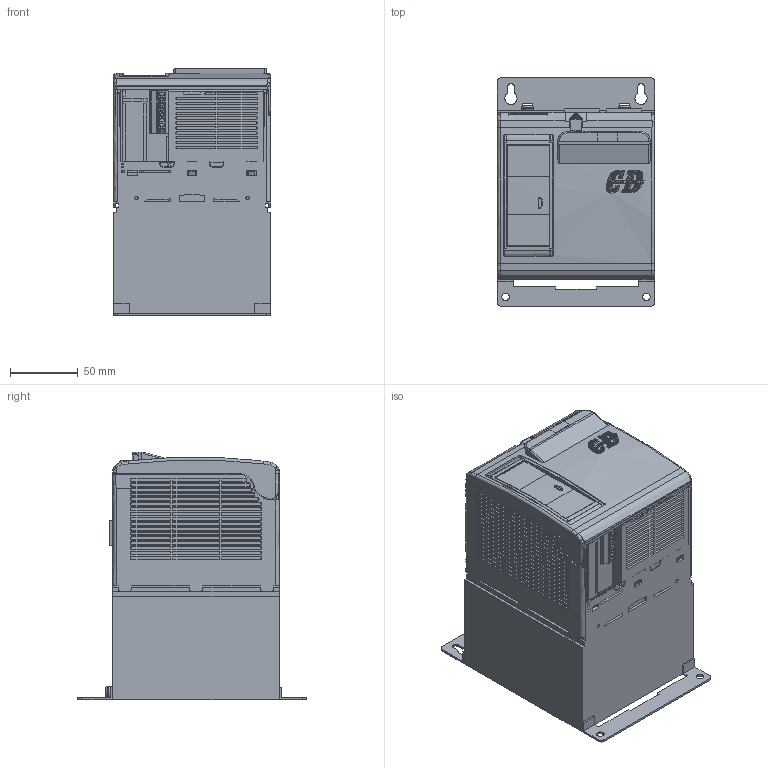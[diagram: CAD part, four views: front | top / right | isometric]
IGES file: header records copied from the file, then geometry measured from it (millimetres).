
Global section: file name: SR24 logo; native system: AutoCAD 2015 - Italiano (Italian); preprocessor: Autodesk Translation Framework DWG producer (atf_dwg_producer); organization: unknown; date: 20191105.143715; units: millimetre
Bounding box: 116.32 x 168.8 x 182.62 mm (x, y, z)
Volume: 2472265.2 mm3; surface area: 165710.8 mm2
Topology: 1 solids, 9 shells, 4165 faces, 11083 edges, 7119 vertices
Faces by surface type: bspline 4165
